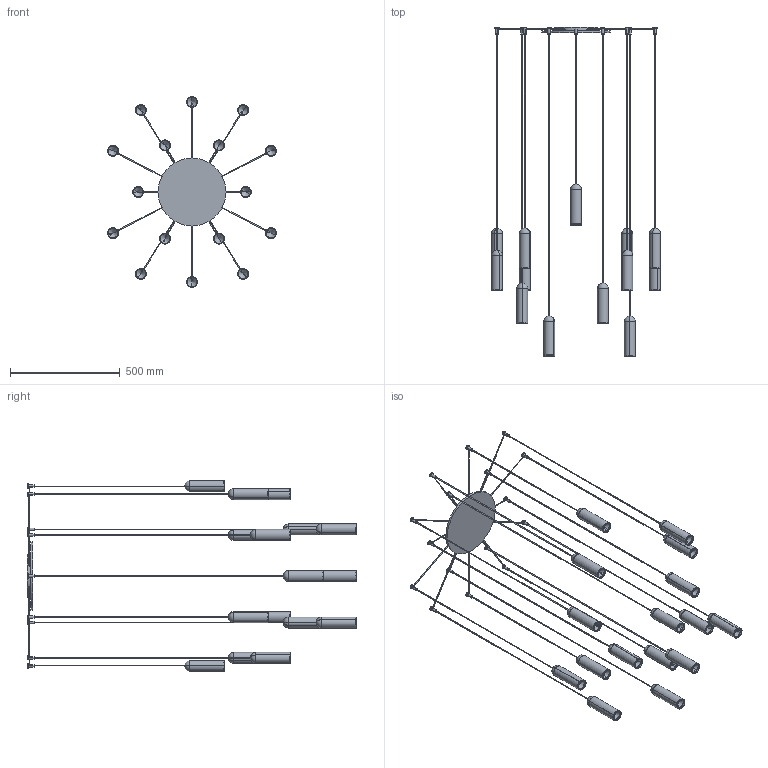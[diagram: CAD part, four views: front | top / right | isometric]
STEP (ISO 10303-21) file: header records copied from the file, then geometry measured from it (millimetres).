
FILE_DESCRIPTION (( 'STEP AP203' ), '1' );
FILE_NAME ('NANA1-00-NANUM 16 A ROSONE CENTRALE.STEP', '2024-07-31T07:26:40', ( '' ), ( '' ), 'SwSTEP 2.0', 'SolidWorks 2022', '' );
FILE_SCHEMA (( 'CONFIG_CONTROL_DESIGN' ));
Length unit declared in the file: millimetre
Products named in the file (7): NANUM_LAMPADA SINGOLA_H=1500; NANUM_LAMPADA SINGOLA_H=1650; NANUM_LAMPADA SINGOLA_H=1800; NANUM_Rosone diam.310_16A<A macchina>; NANUM_LAMPADA SINGOLA_H=2100; NANUM_LAMPADA SINGOLA_H=1900; NANA1-00-NANUM 16 A ROSONE CENTRALE
Assembly tree (17 placements, depth 2):
  NANA1-00-NANUM 16 A ROSONE CENTRALE
    NANUM_Rosone diam.310_16A<A macchina>
    NANUM_LAMPADA SINGOLA_H=1900  x4
    NANUM_LAMPADA SINGOLA_H=1800  x4
    NANUM_LAMPADA SINGOLA_H=1650  x3
    NANUM_LAMPADA SINGOLA_H=2100  x2
    NANUM_LAMPADA SINGOLA_H=1500  x3
Bounding box: 770.21 x 1500 x 870 mm (x, y, z)
Volume: 2664140 mm3; surface area: 1428076.3 mm2
Topology: 48 solids, 48 shells, 604 faces, 1316 edges, 745 vertices
Faces by surface type: cylinder 329, plane 115, cone 64, sphere 64, torus 32
Entity records: 7537 total; most frequent: CARTESIAN_POINT 1542, DIRECTION 1151, ORIENTED_EDGE 928, AXIS2_PLACEMENT_3D 502, EDGE_CURVE 464, VERTEX_POINT 285, EDGE_LOOP 273, FACE_OUTER_BOUND 252
